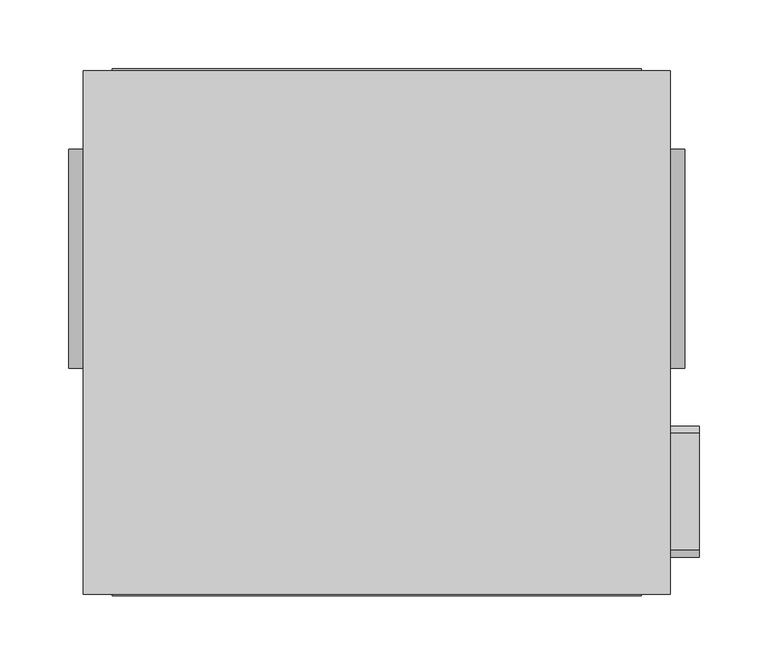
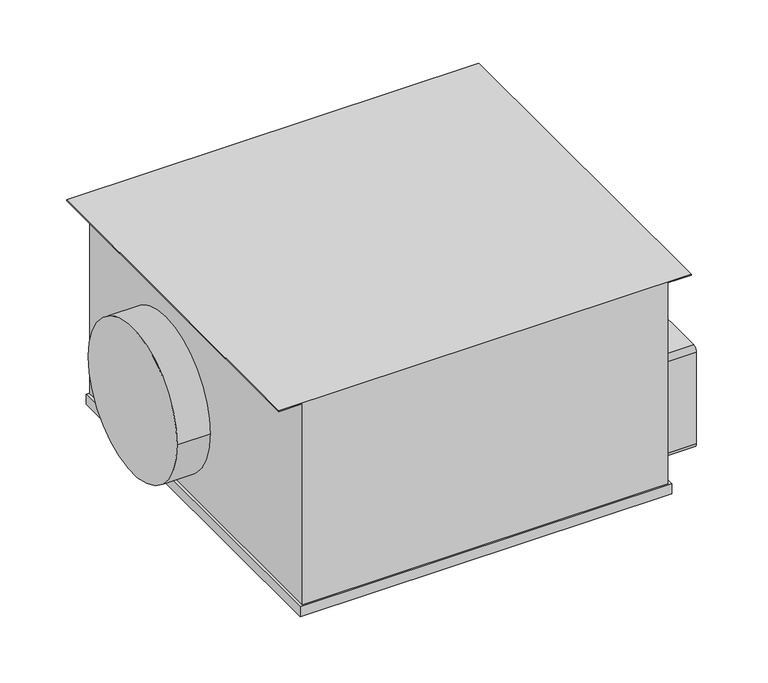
"""IFC4 building model written with IfcOpenShell, lengths in millimetres: unitary equipment geometry, VE-Wentylator-ParaForma-Harmann-ECOBOX_EC-Nawiewny : 160/600EC."""

from ifc_helpers import new_model, si_unit, point, frame, frame_2d, origin, origin_2d, place, context, project, spatial, polyline, circle_curve, trimmed, segment, composite_curve, outline, extrude, source, transform, mapped, element, save


def unitary_equipment_82e6fe82(model_context):
    return source(origin(), model_context, "Body", "SweptSolid", [
        extrude(outline(composite_curve([segment(trimmed(circle_curve(frame_2d((-211.7, -76.0)), 5.0), [point((-211.7, -81.0))], [point((-216.7, -76.0))], False, "CARTESIAN"), True, "CONTINUOUS"), segment(polyline([(-216.7, -76.0), (-216.7, 24.0)]), True, "CONTINUOUS"), segment(trimmed(circle_curve(frame_2d((-211.7, 24.0)), 5.0), [point((-216.7, 24.0))], [point((-211.7, 29.0))], False, "CARTESIAN"), True, "CONTINUOUS"), segment(polyline([(-211.7, 29.0), (-126.7, 29.0)]), True, "CONTINUOUS"), segment(trimmed(circle_curve(frame_2d((-126.7, 24.0)), 5.0), [point((-126.7, 29.0))], [point((-121.7, 24.0))], False, "CARTESIAN"), True, "CONTINUOUS"), segment(polyline([(-121.7, 24.0), (-121.7, -76.0)]), True, "CONTINUOUS"), segment(trimmed(circle_curve(frame_2d((-126.7, -76.0)), 5.0), [point((-121.7, -76.0))], [point((-126.7, -81.0))], False, "CARTESIAN"), True, "CONTINUOUS"), segment(polyline([(-126.7, -81.0), (-211.7, -81.0)]), True, "CONTINUOUS")], self_intersect=False)), frame((189.0, 0.0, 0.0), z_axis=(1.0, 0.0, 0.0), x_axis=(0.0, 1.0, 0.0)), (0.0, 0.0, 1.0), 45.0),
        extrude(outline(polyline([(-192.0, -244.8), (-192.0, 137.8), (192.0, 137.8), (192.0, -244.8), (-192.0, -244.8)])), frame((0.0, 0.0, -98.8), z_axis=(0.0, 0.0, 1.0), x_axis=(1.0, 0.0, 0.0)), (0.0, 0.0, 1.0), 10.9),
        extrude(outline(polyline([(133.0, -213.0), (132.0, -213.0), (132.0, -189.0), (-87.9, -189.0), (-87.9, 189.0), (132.0, 189.0), (132.0, 213.0), (133.0, 213.0), (133.0, -213.0)])), frame((0.0, -243.5, 0.0), z_axis=(0.0, 1.0, 0.0), x_axis=(0.0, 0.0, 1.0)), (0.0, 0.0, 1.0), 380.0),
        extrude(outline(composite_curve([segment(trimmed(circle_curve(origin_2d(), 79.5), [point((-79.5, 0.0))], [point((79.5, 0.0))], False, "CARTESIAN"), True, "CONTINUOUS"), segment(trimmed(circle_curve(origin_2d(), 79.5), [point((79.5, 0.0))], [point((-79.5, 0.0))], False, "CARTESIAN"), True, "CONTINUOUS")], self_intersect=False)), frame((189.0, 0.0, 0.0), z_axis=(1.0, 0.0, 0.0), x_axis=(0.0, 1.0, 0.0)), (0.0, 0.0, 1.0), 34.5),
        extrude(outline(composite_curve([segment(trimmed(circle_curve(origin_2d(), 79.5), [point((-79.5, 0.0))], [point((79.5, 0.0))], False, "CARTESIAN"), True, "CONTINUOUS"), segment(trimmed(circle_curve(origin_2d(), 79.5), [point((79.5, 0.0))], [point((-79.5, 0.0))], False, "CARTESIAN"), True, "CONTINUOUS")], self_intersect=False)), frame((-223.5, 0.0, 0.0), z_axis=(1.0, 0.0, 0.0), x_axis=(0.0, 1.0, 0.0)), (0.0, 0.0, 1.0), 34.5),
    ])


if __name__ == "__main__":
    model = new_model("IFC4")
    model_context = context("Model", 3, world=origin())
    ifc_project = project(units=[si_unit("LENGTHUNIT", "METRE", prefix="MILLI")], contexts=[model_context])
    site = spatial("IfcSite", under=ifc_project)
    building = spatial("IfcBuilding", under=site)
    placement = place(None, origin())
    unitary_equipment_shape = unitary_equipment_82e6fe82(model_context)
    element("IfcUnitaryEquipment", 1, ObjectType="VE-Wentylator-ParaForma-Harmann-ECOBOX_EC-Nawiewny : 160/600EC", at=placement, inside=building, context=model_context, shape_type="MappedRepresentation", body=[
        mapped(unitary_equipment_shape, transform((0.0, 0.0, 0.0), x_axis=(1.0, 0.0, 0.0), y_axis=(0.0, 1.0, 0.0), z_axis=(0.0, 0.0, 1.0))),
    ])
    save(model, "model.ifc")
